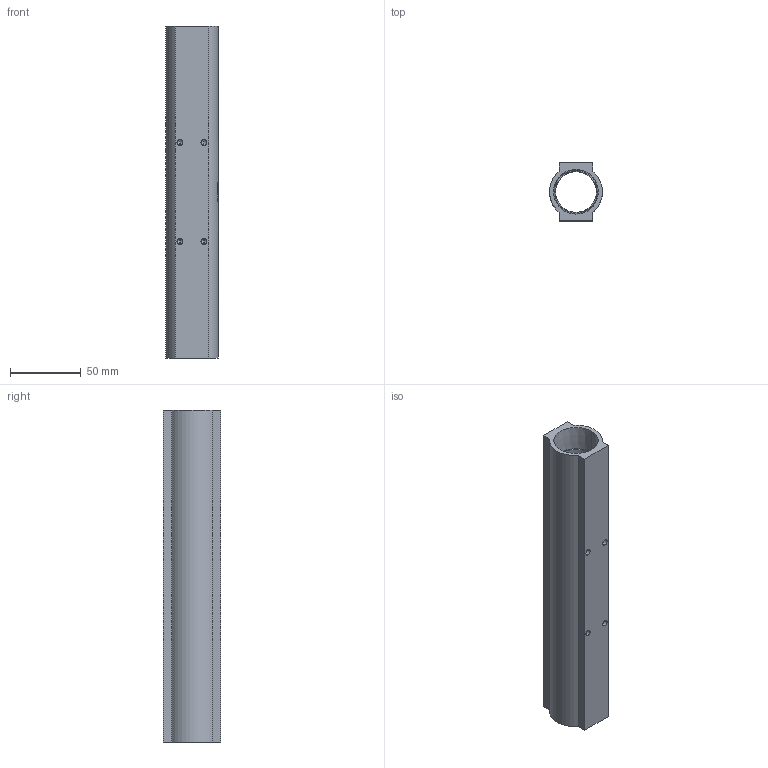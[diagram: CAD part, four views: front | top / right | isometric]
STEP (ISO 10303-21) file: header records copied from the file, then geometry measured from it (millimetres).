
FILE_DESCRIPTION (( 'STEP AP214' ), '1' );
FILE_NAME ('BWM6616B.STEP', '2022-03-15T05:20:45', ( '' ), ( '' ), 'SwSTEP 2.0', 'SolidWorks 2020', '' );
FILE_SCHEMA (( 'AUTOMOTIVE_DESIGN' ));
Length unit declared in the file: millimetre
Products named in the file (1): BWM6616B
Bounding box: 37.44 x 41 x 235 mm (x, y, z)
Volume: 127875.7 mm3; surface area: 55227.1 mm2
Topology: 1 solids, 1 shells, 210 faces, 559 edges, 366 vertices
Faces by surface type: plane 95, bspline 49, cylinder 42, cone 24
Entity records: 11608 total; most frequent: CARTESIAN_POINT 5025, ORIENTED_EDGE 1102, DIRECTION 719, EDGE_CURVE 551, VERTEX_POINT 366, VECTOR 271, LINE 271, EDGE_LOOP 247
